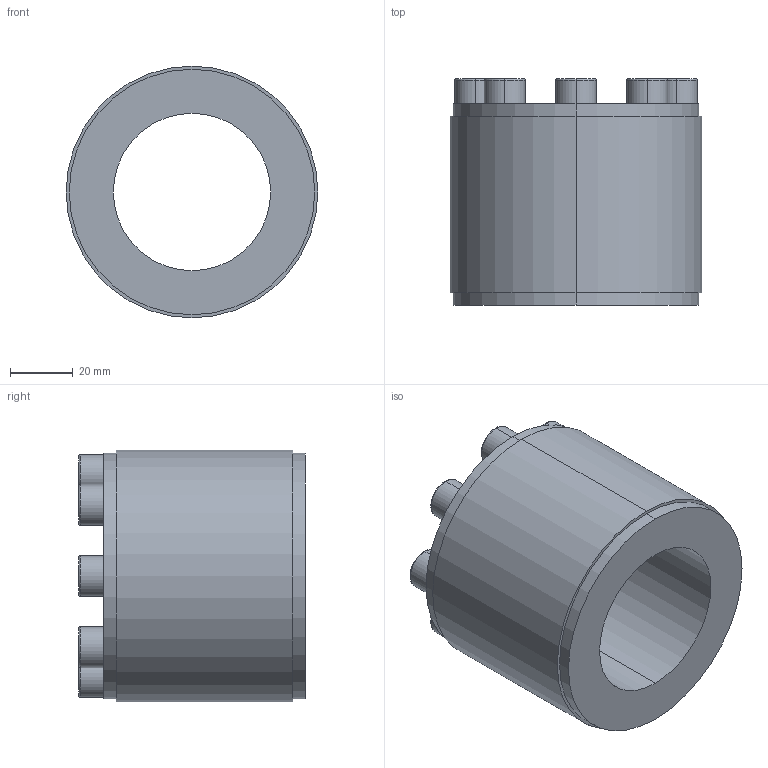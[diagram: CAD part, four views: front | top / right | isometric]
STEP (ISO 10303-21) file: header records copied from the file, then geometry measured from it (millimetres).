
FILE_DESCRIPTION (( 'STEP AP203' ), '1' );
FILE_NAME ('PL-D1 50-80.STEP', '2021-10-23T00:12:14', ( '' ), ( '' ), 'SwSTEP 2.0', 'SolidWorks 2018', '' );
FILE_SCHEMA (( 'CONFIG_CONTROL_DESIGN' ));
Length unit declared in the file: millimetre
Products named in the file (1): PL-D1 50-80
Bounding box: 80 x 72 x 80 mm (x, y, z)
Volume: 201529.9 mm3; surface area: 35421.8 mm2
Topology: 1 solids, 1 shells, 108 faces, 248 edges, 160 vertices
Faces by surface type: plane 68, cylinder 24, torus 16
Entity records: 3125 total; most frequent: DIRECTION 546, CARTESIAN_POINT 517, ORIENTED_EDGE 496, EDGE_CURVE 248, AXIS2_PLACEMENT_3D 189, LINE 168, VECTOR 168, VERTEX_POINT 160
